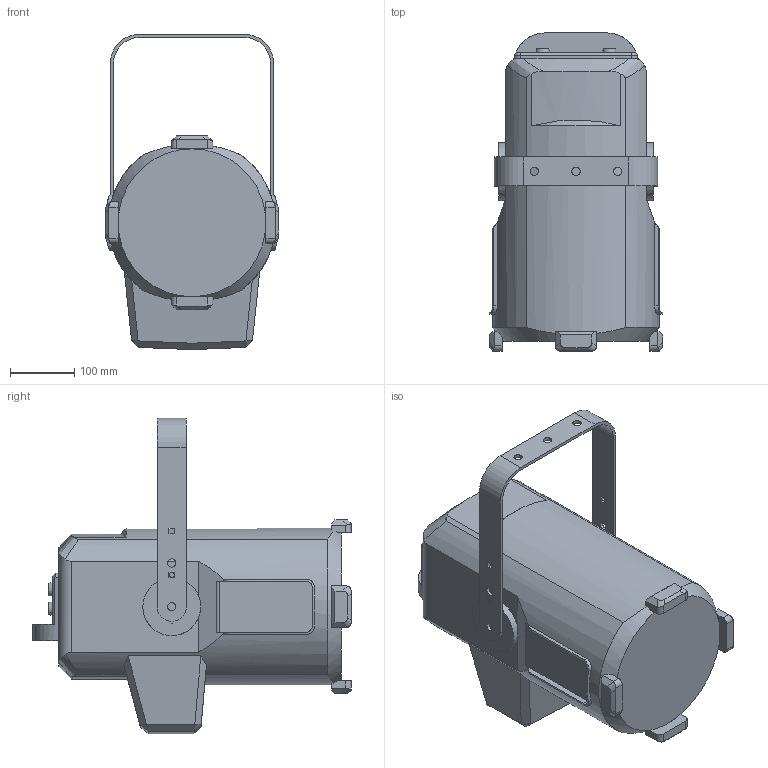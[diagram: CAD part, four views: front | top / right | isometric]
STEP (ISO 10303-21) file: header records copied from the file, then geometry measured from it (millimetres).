
FILE_DESCRIPTION(/* description */ ('Unknown'),/* implementation_level */ '2;1');
FILE_NAME(/* name */ '3D-Robin T15 Fresnel',/* time_stamp */ '2024-03-06T09:55:54+01:00',/* author */ ('Unknown'),/* organization */ ('Unknown'),/* preprocessor_version */ 'ST-DEVELOPER v18.104',/* originating_system */ 'Solid Edge',/* authorisation */ 'Unknown');
FILE_SCHEMA (('AUTOMOTIVE_DESIGN {1 0 10303 214 3 1 1}'));
Length unit declared in the file: millimetre
Products named in the file (3): 3D-Robin T15 Fresnel; 11017865 Z嫛鮀
Assembly tree (2 placements, depth 2):
  3D-Robin T15 Fresnel
    3D-Robin T15 Fresnel
    11017865 Z嫛鮀
Bounding box: 270.3 x 495.05 x 490.33 mm (x, y, z)
Volume: 23610417.9 mm3; surface area: 613005.8 mm2
Topology: 3 solids, 3 shells, 213 faces, 592 edges, 387 vertices
Faces by surface type: plane 125, cylinder 67, cone 11, bspline 10
Full cylindrical faces by diameter (mm): 8 x1, 12.9 x4, 13 x3, 90 x2
Entity records: 7166 total; most frequent: CARTESIAN_POINT 1797, ORIENTED_EDGE 1134, DIRECTION 1035, EDGE_CURVE 567, VERTEX_POINT 378, AXIS2_PLACEMENT_3D 357, LINE 321, VECTOR 321
